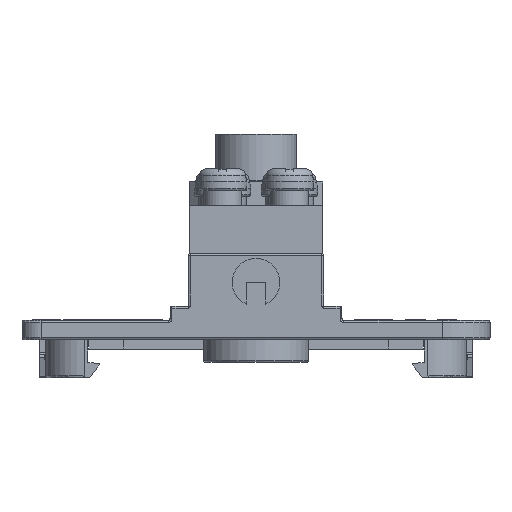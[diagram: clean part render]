
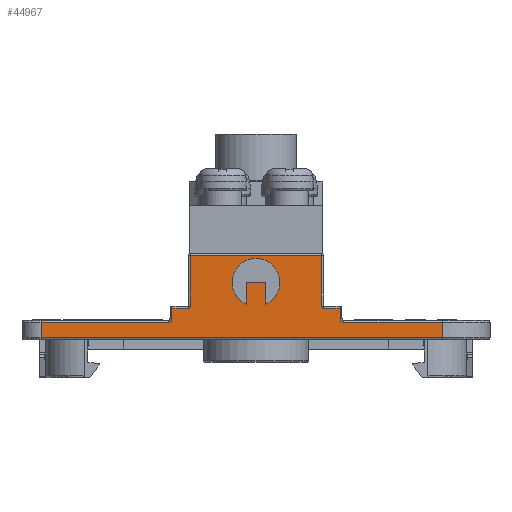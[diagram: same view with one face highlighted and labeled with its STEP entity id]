
A CAD part, left-side view. The second image highlights one B-rep face of the part: STEP entity #44967.
In plain terms, the highlighted planar face has unit normal (-1, 0, 0).
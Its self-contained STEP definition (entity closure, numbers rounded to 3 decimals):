
#2502=LINE('',#63843,#5703);
#2504=LINE('',#63847,#5705);
#2506=LINE('',#63851,#5707);
#2721=LINE('',#64380,#5922);
#2820=LINE('',#64645,#6021);
#2821=LINE('',#64650,#6022);
#2822=LINE('',#64652,#6023);
#2823=LINE('',#64654,#6024);
#2824=LINE('',#64655,#6025);
#2825=LINE('',#64659,#6026);
#2826=LINE('',#64661,#6027);
#2827=LINE('',#64665,#6028);
#2828=LINE('',#64667,#6029);
#2829=LINE('',#64669,#6030);
#2830=LINE('',#64673,#6031);
#5703=VECTOR('',#51583,1000.);
#5705=VECTOR('',#51587,1000.);
#5707=VECTOR('',#51591,1000.);
#5922=VECTOR('',#51996,1000.);
#6021=VECTOR('',#52257,1000.);
#6022=VECTOR('',#52260,1000.);
#6023=VECTOR('',#52261,1000.);
#6024=VECTOR('',#52262,1000.);
#6025=VECTOR('',#52263,1000.);
#6026=VECTOR('',#52266,1000.);
#6027=VECTOR('',#52267,1000.);
#6028=VECTOR('',#52270,1000.);
#6029=VECTOR('',#52271,1000.);
#6030=VECTOR('',#52272,1000.);
#6031=VECTOR('',#52275,1000.);
#11051=ORIENTED_EDGE('',*,*,#19099,.T.);
#11052=ORIENTED_EDGE('',*,*,#19100,.T.);
#11053=ORIENTED_EDGE('',*,*,#19101,.T.);
#11054=ORIENTED_EDGE('',*,*,#19102,.T.);
#11055=ORIENTED_EDGE('',*,*,#19103,.T.);
#11056=ORIENTED_EDGE('',*,*,#18961,.T.);
#11057=ORIENTED_EDGE('',*,*,#19104,.T.);
#11058=ORIENTED_EDGE('',*,*,#19105,.T.);
#11059=ORIENTED_EDGE('',*,*,#19106,.T.);
#11060=ORIENTED_EDGE('',*,*,#19107,.T.);
#11061=ORIENTED_EDGE('',*,*,#19108,.F.);
#11062=ORIENTED_EDGE('',*,*,#19109,.T.);
#11063=ORIENTED_EDGE('',*,*,#19110,.T.);
#11064=ORIENTED_EDGE('',*,*,#19111,.T.);
#11065=ORIENTED_EDGE('',*,*,#19112,.F.);
#11066=ORIENTED_EDGE('',*,*,#19113,.T.);
#11067=ORIENTED_EDGE('',*,*,#18712,.T.);
#11068=ORIENTED_EDGE('',*,*,#18710,.F.);
#11069=ORIENTED_EDGE('',*,*,#18708,.T.);
#11070=ORIENTED_EDGE('',*,*,#18705,.T.);
#18705=EDGE_CURVE('',#22977,#22978,#24819,.T.);
#18708=EDGE_CURVE('',#22979,#22977,#2502,.T.);
#18710=EDGE_CURVE('',#22979,#22980,#2504,.T.);
#18712=EDGE_CURVE('',#22978,#22980,#2506,.T.);
#18961=EDGE_CURVE('',#23200,#23201,#2721,.F.);
#19099=EDGE_CURVE('',#23285,#23286,#2820,.F.);
#19100=EDGE_CURVE('',#23286,#23287,#24893,.F.);
#19101=EDGE_CURVE('',#23287,#23288,#2821,.F.);
#19102=EDGE_CURVE('',#23288,#23289,#2822,.T.);
#19103=EDGE_CURVE('',#23289,#23200,#2823,.F.);
#19104=EDGE_CURVE('',#23201,#23290,#2824,.F.);
#19105=EDGE_CURVE('',#23290,#23291,#24894,.F.);
#19106=EDGE_CURVE('',#23291,#23292,#2825,.F.);
#19107=EDGE_CURVE('',#23292,#23293,#2826,.F.);
#19108=EDGE_CURVE('',#23294,#23293,#24895,.T.);
#19109=EDGE_CURVE('',#23294,#23295,#2827,.F.);
#19110=EDGE_CURVE('',#23295,#23296,#2828,.F.);
#19111=EDGE_CURVE('',#23296,#23297,#2829,.F.);
#19112=EDGE_CURVE('',#23298,#23297,#24896,.T.);
#19113=EDGE_CURVE('',#23298,#23285,#2830,.F.);
#22977=VERTEX_POINT('',#63838);
#22978=VERTEX_POINT('',#63839);
#22979=VERTEX_POINT('',#63844);
#22980=VERTEX_POINT('',#63848);
#23200=VERTEX_POINT('',#64381);
#23201=VERTEX_POINT('',#64382);
#23285=VERTEX_POINT('',#64646);
#23286=VERTEX_POINT('',#64647);
#23287=VERTEX_POINT('',#64649);
#23288=VERTEX_POINT('',#64651);
#23289=VERTEX_POINT('',#64653);
#23290=VERTEX_POINT('',#64656);
#23291=VERTEX_POINT('',#64658);
#23292=VERTEX_POINT('',#64660);
#23293=VERTEX_POINT('',#64662);
#23294=VERTEX_POINT('',#64664);
#23295=VERTEX_POINT('',#64666);
#23296=VERTEX_POINT('',#64668);
#23297=VERTEX_POINT('',#64670);
#23298=VERTEX_POINT('',#64672);
#24819=CIRCLE('',#47050,2.5);
#24893=CIRCLE('',#47230,0.4);
#24894=CIRCLE('',#47231,0.4);
#24895=CIRCLE('',#47232,0.2);
#24896=CIRCLE('',#47233,0.2);
#26094=EDGE_LOOP('',(#11051,#11052,#11053,#11054,#11055,#11056,#11057,#11058,
#11059,#11060,#11061,#11062,#11063,#11064,#11065,#11066));
#26095=EDGE_LOOP('',(#11067,#11068,#11069,#11070));
#28397=FACE_BOUND('',#26094,.T.);
#28398=FACE_BOUND('',#26095,.T.);
#30392=PLANE('',#47229);
#44967=ADVANCED_FACE('',(#28397,#28398),#30392,.T.);
#47050=AXIS2_PLACEMENT_3D('',#63837,#51577,#51578);
#47229=AXIS2_PLACEMENT_3D('',#64644,#52255,#52256);
#47230=AXIS2_PLACEMENT_3D('',#64648,#52258,#52259);
#47231=AXIS2_PLACEMENT_3D('',#64657,#52264,#52265);
#47232=AXIS2_PLACEMENT_3D('',#64663,#52268,#52269);
#47233=AXIS2_PLACEMENT_3D('',#64671,#52273,#52274);
#51577=DIRECTION('',(1.,0.,0.));
#51578=DIRECTION('',(0.,0.,-1.));
#51583=DIRECTION('',(0.,0.,-1.));
#51587=DIRECTION('',(0.,-1.,0.));
#51591=DIRECTION('',(0.,0.,1.));
#51996=DIRECTION('',(0.,0.,-1.));
#52255=DIRECTION('',(-1.,0.,0.));
#52256=DIRECTION('',(0.,-1.,0.));
#52257=DIRECTION('',(0.,0.,1.));
#52258=DIRECTION('',(-1.,0.,0.));
#52259=DIRECTION('',(0.,-1.,0.));
#52260=DIRECTION('',(0.,-1.,0.));
#52261=DIRECTION('',(0.,0.,-1.));
#52262=DIRECTION('',(0.,1.,0.));
#52263=DIRECTION('',(0.,-1.,0.));
#52264=DIRECTION('',(-1.,0.,0.));
#52265=DIRECTION('',(0.,-1.,0.));
#52266=DIRECTION('',(0.,0.,-1.));
#52267=DIRECTION('',(0.,-1.,0.));
#52268=DIRECTION('',(-1.,0.,0.));
#52269=DIRECTION('',(0.,-1.,0.));
#52270=DIRECTION('',(0.,0.,-1.));
#52271=DIRECTION('',(0.,-1.,0.));
#52272=DIRECTION('',(0.,0.,1.));
#52273=DIRECTION('',(-1.,0.,0.));
#52274=DIRECTION('',(0.,-1.,0.));
#52275=DIRECTION('',(0.,-1.,0.));
#63837=CARTESIAN_POINT('',(-57.,0.,6.));
#63838=CARTESIAN_POINT('',(-57.,1.,3.709));
#63839=CARTESIAN_POINT('',(-57.,-1.,3.709));
#63843=CARTESIAN_POINT('',(-57.,1.,4.));
#63844=CARTESIAN_POINT('',(-57.,1.,6.));
#63847=CARTESIAN_POINT('',(-57.,1.,6.));
#63848=CARTESIAN_POINT('',(-57.,-1.,6.));
#63851=CARTESIAN_POINT('',(-57.,-1.,4.));
#64380=CARTESIAN_POINT('',(-57.,-19.5,0.));
#64381=CARTESIAN_POINT('',(-57.,-19.5,0.2));
#64382=CARTESIAN_POINT('',(-57.,-19.5,1.8));
#64644=CARTESIAN_POINT('',(-57.,0.,0.));
#64645=CARTESIAN_POINT('',(-57.,8.8,0.));
#64646=CARTESIAN_POINT('',(-57.,8.8,3.3));
#64647=CARTESIAN_POINT('',(-57.,8.8,2.2));
#64648=CARTESIAN_POINT('',(-57.,9.2,2.2));
#64649=CARTESIAN_POINT('',(-57.,9.2,1.8));
#64650=CARTESIAN_POINT('',(-57.,22.5,1.8));
#64651=CARTESIAN_POINT('',(-57.,22.5,1.8));
#64652=CARTESIAN_POINT('',(-57.,22.5,0.));
#64653=CARTESIAN_POINT('',(-57.,22.5,0.2));
#64654=CARTESIAN_POINT('',(-57.,0.,0.2));
#64655=CARTESIAN_POINT('',(-57.,-9.,1.8));
#64656=CARTESIAN_POINT('',(-57.,-9.2,1.8));
#64657=CARTESIAN_POINT('',(-57.,-9.2,2.2));
#64658=CARTESIAN_POINT('',(-57.,-8.8,2.2));
#64659=CARTESIAN_POINT('',(-57.,-8.8,3.5));
#64660=CARTESIAN_POINT('',(-57.,-8.8,3.3));
#64661=CARTESIAN_POINT('',(-57.,0.,3.3));
#64662=CARTESIAN_POINT('',(-57.,-7.1,3.3));
#64663=CARTESIAN_POINT('',(-57.,-7.1,3.5));
#64664=CARTESIAN_POINT('',(-57.,-6.9,3.5));
#64665=CARTESIAN_POINT('',(-57.,-6.9,0.));
#64666=CARTESIAN_POINT('',(-57.,-6.9,8.8));
#64667=CARTESIAN_POINT('',(-57.,7.1,8.8));
#64668=CARTESIAN_POINT('',(-57.,6.9,8.8));
#64669=CARTESIAN_POINT('',(-57.,6.9,0.));
#64670=CARTESIAN_POINT('',(-57.,6.9,3.5));
#64671=CARTESIAN_POINT('',(-57.,7.1,3.5));
#64672=CARTESIAN_POINT('',(-57.,7.1,3.3));
#64673=CARTESIAN_POINT('',(-57.,9.,3.3));
